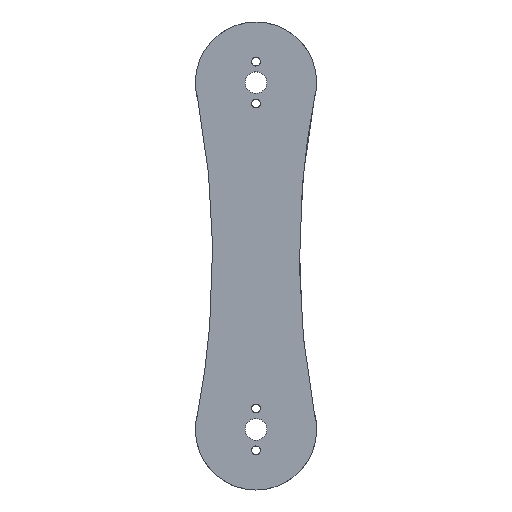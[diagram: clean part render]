
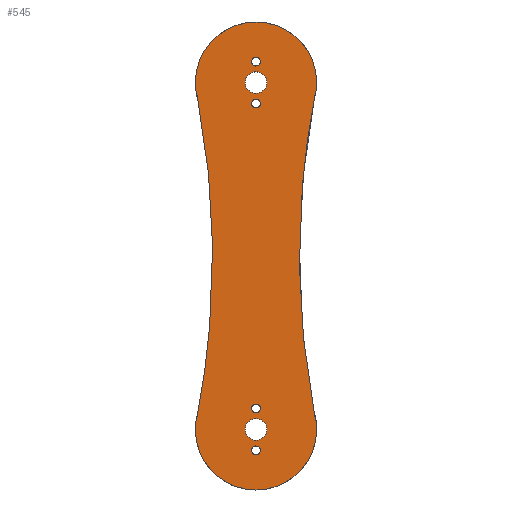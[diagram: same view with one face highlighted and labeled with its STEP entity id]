
A CAD part, top view. The second image highlights one B-rep face of the part: STEP entity #545.
In plain terms, the highlighted planar face has unit normal (0, 0, 1).
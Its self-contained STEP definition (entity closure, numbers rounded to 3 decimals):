
#24=PLANE('',#589);
#27=CIRCLE('',#585,21.);
#28=CIRCLE('',#587,21.);
#29=CIRCLE('',#590,1.5);
#30=CIRCLE('',#591,1.5);
#31=CIRCLE('',#592,1.5);
#32=CIRCLE('',#593,1.5);
#33=CIRCLE('',#594,3.75);
#34=CIRCLE('',#595,3.75);
#61=FACE_BOUND('',#115,.T.);
#62=FACE_BOUND('',#116,.T.);
#63=FACE_BOUND('',#117,.T.);
#64=FACE_BOUND('',#118,.T.);
#65=FACE_BOUND('',#119,.T.);
#66=FACE_BOUND('',#120,.T.);
#82=FACE_OUTER_BOUND('',#114,.T.);
#114=EDGE_LOOP('',(#405,#406,#407,#408));
#115=EDGE_LOOP('',(#409));
#116=EDGE_LOOP('',(#410));
#117=EDGE_LOOP('',(#411));
#118=EDGE_LOOP('',(#412));
#119=EDGE_LOOP('',(#413));
#120=EDGE_LOOP('',(#414));
#213=B_SPLINE_CURVE_WITH_KNOTS('',3,(#1960,#1961,#1962,#1963),
 .UNSPECIFIED.,.F.,.F.,(4,4),(0.499,0.501),
 .UNSPECIFIED.);
#214=B_SPLINE_CURVE_WITH_KNOTS('',3,(#1964,#1965,#1966,#1967),
 .UNSPECIFIED.,.F.,.F.,(4,4),(0.499,0.501),
 .UNSPECIFIED.);
#247=VERTEX_POINT('',#1463);
#248=VERTEX_POINT('',#1465);
#255=VERTEX_POINT('',#1811);
#256=VERTEX_POINT('',#1813);
#262=VERTEX_POINT('',#1968);
#263=VERTEX_POINT('',#1970);
#264=VERTEX_POINT('',#1972);
#265=VERTEX_POINT('',#1974);
#266=VERTEX_POINT('',#1976);
#267=VERTEX_POINT('',#1978);
#301=EDGE_CURVE('',#248,#247,#27,.T.);
#309=EDGE_CURVE('',#256,#255,#28,.T.);
#320=EDGE_CURVE('',#247,#256,#213,.T.);
#321=EDGE_CURVE('',#255,#248,#214,.T.);
#322=EDGE_CURVE('',#262,#262,#29,.T.);
#323=EDGE_CURVE('',#263,#263,#30,.T.);
#324=EDGE_CURVE('',#264,#264,#31,.T.);
#325=EDGE_CURVE('',#265,#265,#32,.T.);
#326=EDGE_CURVE('',#266,#266,#33,.T.);
#327=EDGE_CURVE('',#267,#267,#34,.T.);
#405=ORIENTED_EDGE('',*,*,#301,.T.);
#406=ORIENTED_EDGE('',*,*,#320,.T.);
#407=ORIENTED_EDGE('',*,*,#309,.T.);
#408=ORIENTED_EDGE('',*,*,#321,.T.);
#409=ORIENTED_EDGE('',*,*,#322,.T.);
#410=ORIENTED_EDGE('',*,*,#323,.T.);
#411=ORIENTED_EDGE('',*,*,#324,.T.);
#412=ORIENTED_EDGE('',*,*,#325,.T.);
#413=ORIENTED_EDGE('',*,*,#326,.T.);
#414=ORIENTED_EDGE('',*,*,#327,.T.);
#545=ADVANCED_FACE('',(#82,#61,#62,#63,#64,#65,#66),#24,.T.);
#585=AXIS2_PLACEMENT_3D('',#1466,#628,#629);
#587=AXIS2_PLACEMENT_3D('',#1814,#636,#637);
#589=AXIS2_PLACEMENT_3D('',#1959,#644,#645);
#590=AXIS2_PLACEMENT_3D('',#1969,#646,#647);
#591=AXIS2_PLACEMENT_3D('',#1971,#648,#649);
#592=AXIS2_PLACEMENT_3D('',#1973,#650,#651);
#593=AXIS2_PLACEMENT_3D('',#1975,#652,#653);
#594=AXIS2_PLACEMENT_3D('',#1977,#654,#655);
#595=AXIS2_PLACEMENT_3D('',#1979,#656,#657);
#628=DIRECTION('center_axis',(0.,0.,1.));
#629=DIRECTION('ref_axis',(1.,0.,0.));
#636=DIRECTION('center_axis',(0.,0.,1.));
#637=DIRECTION('ref_axis',(1.,0.,0.));
#644=DIRECTION('center_axis',(0.,0.,1.));
#645=DIRECTION('ref_axis',(1.,0.,0.));
#646=DIRECTION('center_axis',(0.,0.,-1.));
#647=DIRECTION('ref_axis',(-1.,0.,0.));
#648=DIRECTION('center_axis',(0.,0.,-1.));
#649=DIRECTION('ref_axis',(-1.,0.,0.));
#650=DIRECTION('center_axis',(0.,0.,-1.));
#651=DIRECTION('ref_axis',(1.,0.,0.));
#652=DIRECTION('center_axis',(0.,0.,-1.));
#653=DIRECTION('ref_axis',(1.,0.,0.));
#654=DIRECTION('center_axis',(0.,0.,-1.));
#655=DIRECTION('ref_axis',(1.,0.,0.));
#656=DIRECTION('center_axis',(0.,0.,-1.));
#657=DIRECTION('ref_axis',(-1.,0.,0.));
#1463=CARTESIAN_POINT('',(20.125,6.,21.));
#1465=CARTESIAN_POINT('',(-20.125,6.,21.));
#1466=CARTESIAN_POINT('Origin',(0.,0.,21.));
#1811=CARTESIAN_POINT('',(-20.125,114.,21.));
#1813=CARTESIAN_POINT('',(20.125,114.,21.));
#1814=CARTESIAN_POINT('Origin',(0.,120.,21.));
#1959=CARTESIAN_POINT('Origin',(0.,0.,21.));
#1960=CARTESIAN_POINT('Ctrl Pts',(20.125,6.,21.));
#1961=CARTESIAN_POINT('Ctrl Pts',(13.292,42.,21.));
#1962=CARTESIAN_POINT('Ctrl Pts',(13.292,78.,21.));
#1963=CARTESIAN_POINT('Ctrl Pts',(20.125,114.,21.));
#1964=CARTESIAN_POINT('Ctrl Pts',(-20.125,114.,21.));
#1965=CARTESIAN_POINT('Ctrl Pts',(-13.292,78.,21.));
#1966=CARTESIAN_POINT('Ctrl Pts',(-13.292,42.,21.));
#1967=CARTESIAN_POINT('Ctrl Pts',(-20.125,6.,21.));
#1968=CARTESIAN_POINT('',(1.5,7.25,21.));
#1969=CARTESIAN_POINT('Origin',(0.,7.25,21.));
#1970=CARTESIAN_POINT('',(1.5,-7.25,21.));
#1971=CARTESIAN_POINT('Origin',(0.,-7.25,21.));
#1972=CARTESIAN_POINT('',(1.5,127.25,21.));
#1973=CARTESIAN_POINT('Origin',(0.,127.25,21.));
#1974=CARTESIAN_POINT('',(1.5,112.75,21.));
#1975=CARTESIAN_POINT('Origin',(0.,112.75,21.));
#1976=CARTESIAN_POINT('',(3.75,120.,21.));
#1977=CARTESIAN_POINT('Origin',(0.,120.,21.));
#1978=CARTESIAN_POINT('',(3.75,0.,21.));
#1979=CARTESIAN_POINT('Origin',(0.,0.,21.));
